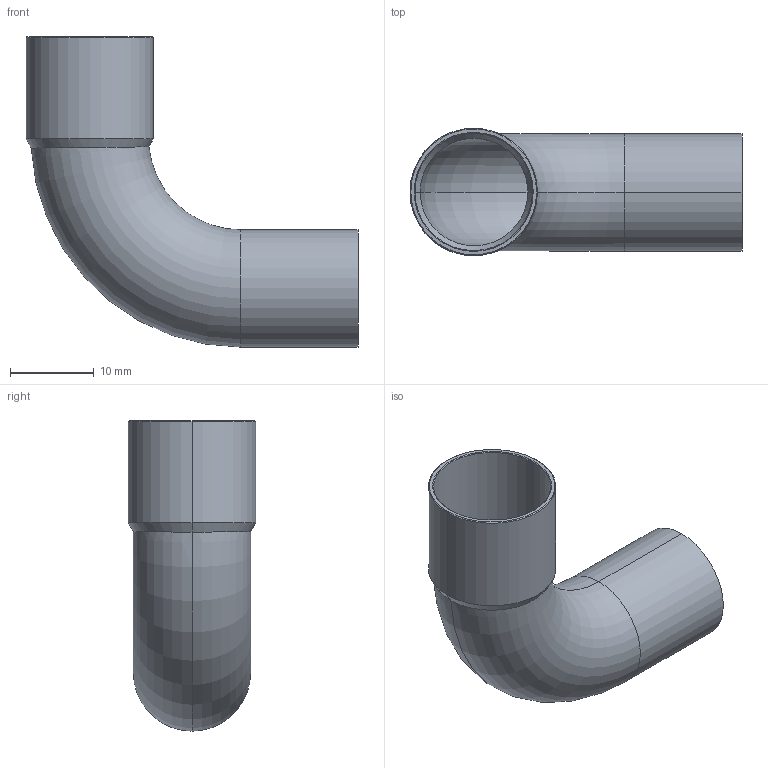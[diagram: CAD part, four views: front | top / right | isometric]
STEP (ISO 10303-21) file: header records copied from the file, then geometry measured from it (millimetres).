
FILE_DESCRIPTION((''),'2;1');
FILE_NAME('P:\Bouwmaten\z-maattekeningen 3D\5000\5001a\15001a14.stp','2005-10-04T14:32:17',('Kris'),(''),'Autodesk Inventor 8','Autodesk Inventor 8','');
FILE_SCHEMA(('AUTOMOTIVE_DESIGN { 1 0 10303 214 1 1 1 1 }'));
Length unit declared in the file: millimetre
Products named in the file (1): 15001a14
Bounding box: 39.6 x 15.2 x 37 mm (x, y, z)
Volume: 1403.1 mm3; surface area: 4726 mm2
Topology: 1 solids, 1 shells, 22 faces, 46 edges, 26 vertices
Faces by surface type: cone 8, cylinder 8, torus 4, plane 2
Entity records: 679 total; most frequent: CARTESIAN_POINT 171, DIRECTION 114, ORIENTED_EDGE 92, AXIS2_PLACEMENT_3D 49, EDGE_CURVE 46, VERTEX_POINT 26, CIRCLE 26, EDGE_LOOP 24
